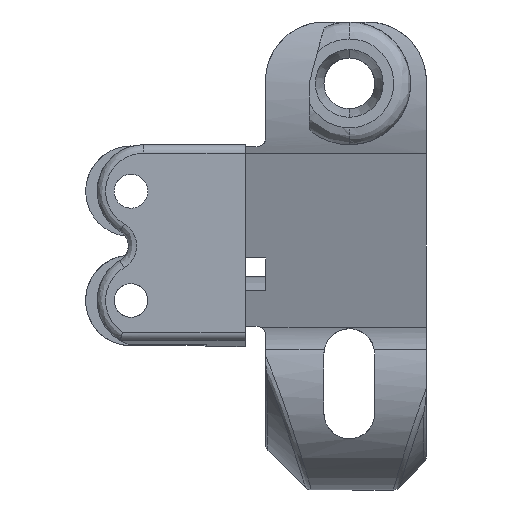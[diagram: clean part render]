
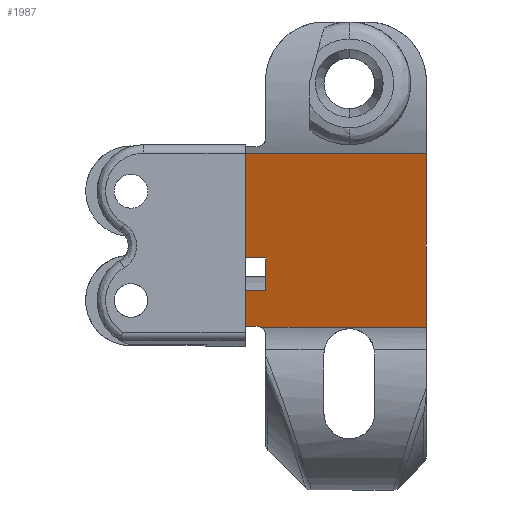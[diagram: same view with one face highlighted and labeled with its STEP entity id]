
A CAD part, left-side view. The second image highlights one B-rep face of the part: STEP entity #1987.
In plain terms, the highlighted planar face has unit normal (-0.962, 0, -0.274).
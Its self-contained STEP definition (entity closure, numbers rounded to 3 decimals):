
#49 = LINE ( 'NONE', #2809, #3305 ) ;
#51 = CARTESIAN_POINT ( 'NONE',  ( -14.586, -1.858, -11.401 ) ) ;
#91 = CARTESIAN_POINT ( 'NONE',  ( -14.586, -500000., -11.401 ) ) ;
#100 =( BOUNDED_CURVE ( )  B_SPLINE_CURVE ( 3, ( #8307, #5767, #548, #6319 ),
 .UNSPECIFIED., .F., .F. ) 
 B_SPLINE_CURVE_WITH_KNOTS ( ( 4, 4 ),
 ( 3.142, 3.618 ),
 .UNSPECIFIED. ) 
 CURVE ( )  GEOMETRIC_REPRESENTATION_ITEM ( )  RATIONAL_B_SPLINE_CURVE ( ( 1., 0.981, 0.981, 1. ) ) 
 REPRESENTATION_ITEM ( '' )  );
#157 = LINE ( 'NONE', #5869, #6881 ) ;
#229 = ORIENTED_EDGE ( 'NONE', *, *, #3858, .T. ) ;
#314 = AXIS2_PLACEMENT_3D ( 'NONE', #7993, #2166, #4763 ) ;
#372 = ORIENTED_EDGE ( 'NONE', *, *, #6979, .F. ) ;
#454 = VECTOR ( 'NONE', #4653, 1000. ) ;
#468 = LINE ( 'NONE', #6340, #5367 ) ;
#548 = CARTESIAN_POINT ( 'NONE',  ( -14.607, -1.716, -11.328 ) ) ;
#562 = LINE ( 'NONE', #752, #1775 ) ;
#602 = EDGE_CURVE ( 'NONE', #7084, #2658, #2118, .T. ) ;
#637 = ORIENTED_EDGE ( 'NONE', *, *, #7537, .F. ) ;
#674 = CARTESIAN_POINT ( 'NONE',  ( -14.618, -1.4, -11.29 ) ) ;
#752 = CARTESIAN_POINT ( 'NONE',  ( -15.814, -2.4, -7.084 ) ) ;
#863 = CARTESIAN_POINT ( 'NONE',  ( -16.919, -500000., -3.204 ) ) ;
#879 = VERTEX_POINT ( 'NONE', #674 ) ;
#1138 = VERTEX_POINT ( 'NONE', #3660 ) ;
#1374 = EDGE_CURVE ( 'NONE', #1138, #2318, #157, .T. ) ;
#1775 = VECTOR ( 'NONE', #5406, 1000. ) ;
#1798 = ORIENTED_EDGE ( 'NONE', *, *, #6457, .F. ) ;
#1847 = DIRECTION ( 'NONE',  ( 0., -1., 0. ) ) ;
#1987 = ADVANCED_FACE ( 'NONE', ( #4130 ), #3359, .F. ) ;
#2118 = LINE ( 'NONE', #863, #3649 ) ;
#2138 = DIRECTION ( 'NONE',  ( 0., -1., 0. ) ) ;
#2156 = VERTEX_POINT ( 'NONE', #2299 ) ;
#2166 = DIRECTION ( 'NONE',  ( 0.962, 0., 0.274 ) ) ;
#2299 = CARTESIAN_POINT ( 'NONE',  ( -20.428, 0., 9.129 ) ) ;
#2318 = VERTEX_POINT ( 'NONE', #2491 ) ;
#2416 = CARTESIAN_POINT ( 'NONE',  ( -15.814, 0., -7.084 ) ) ;
#2491 = CARTESIAN_POINT ( 'NONE',  ( -14.586, -21.4, -11.401 ) ) ;
#2590 = CARTESIAN_POINT ( 'NONE',  ( -15.814, -2.4, -7.084 ) ) ;
#2646 = DIRECTION ( 'NONE',  ( 0.274, 0., -0.962 ) ) ;
#2658 = VERTEX_POINT ( 'NONE', #4602 ) ;
#2745 = DIRECTION ( 'NONE',  ( 0.274, 0., -0.962 ) ) ;
#2809 = CARTESIAN_POINT ( 'NONE',  ( -15.814, 0., -7.084 ) ) ;
#2916 = LINE ( 'NONE', #7302, #4748 ) ;
#3250 = VERTEX_POINT ( 'NONE', #3670 ) ;
#3297 = VECTOR ( 'NONE', #2138, 1000. ) ;
#3305 = VECTOR ( 'NONE', #2745, 1000. ) ;
#3359 = PLANE ( 'NONE',  #314 ) ;
#3599 = LINE ( 'NONE', #4445, #6038 ) ;
#3649 = VECTOR ( 'NONE', #5434, 1000. ) ;
#3660 = CARTESIAN_POINT ( 'NONE',  ( -20.428, -21.4, 9.129 ) ) ;
#3670 = CARTESIAN_POINT ( 'NONE',  ( -14.618, 0., -11.29 ) ) ;
#3694 = ORIENTED_EDGE ( 'NONE', *, *, #5737, .T. ) ;
#3858 = EDGE_CURVE ( 'NONE', #879, #4911, #100, .T. ) ;
#3880 = CARTESIAN_POINT ( 'NONE',  ( -16.919, 0., -3.204 ) ) ;
#4126 = DIRECTION ( 'NONE',  ( 0., 1., 0. ) ) ;
#4130 = FACE_OUTER_BOUND ( 'NONE', #6590, .T. ) ;
#4445 = CARTESIAN_POINT ( 'NONE',  ( -20.428, -500000., 9.129 ) ) ;
#4602 = CARTESIAN_POINT ( 'NONE',  ( -16.919, -2.4, -3.204 ) ) ;
#4653 = DIRECTION ( 'NONE',  ( 0., 1., 0. ) ) ;
#4748 = VECTOR ( 'NONE', #4126, 1000. ) ;
#4763 = DIRECTION ( 'NONE',  ( 0.274, 0., -0.962 ) ) ;
#4911 = VERTEX_POINT ( 'NONE', #51 ) ;
#4942 = LINE ( 'NONE', #6657, #3297 ) ;
#5102 = EDGE_CURVE ( 'NONE', #879, #3250, #2916, .T. ) ;
#5225 = ORIENTED_EDGE ( 'NONE', *, *, #5353, .T. ) ;
#5309 = ORIENTED_EDGE ( 'NONE', *, *, #1374, .F. ) ;
#5353 = EDGE_CURVE ( 'NONE', #2156, #7084, #468, .T. ) ;
#5367 = VECTOR ( 'NONE', #7639, 1000. ) ;
#5406 = DIRECTION ( 'NONE',  ( -0.274, 0., 0.962 ) ) ;
#5434 = DIRECTION ( 'NONE',  ( 0., -1., 0. ) ) ;
#5737 = EDGE_CURVE ( 'NONE', #6239, #3250, #49, .T. ) ;
#5767 = CARTESIAN_POINT ( 'NONE',  ( -14.618, -1.56, -11.29 ) ) ;
#5869 = CARTESIAN_POINT ( 'NONE',  ( -15.814, -21.4, -7.084 ) ) ;
#6038 = VECTOR ( 'NONE', #1847, 1000. ) ;
#6239 = VERTEX_POINT ( 'NONE', #2416 ) ;
#6304 = ORIENTED_EDGE ( 'NONE', *, *, #5102, .F. ) ;
#6319 = CARTESIAN_POINT ( 'NONE',  ( -14.586, -1.858, -11.401 ) ) ;
#6340 = CARTESIAN_POINT ( 'NONE',  ( -20.428, 0., 9.129 ) ) ;
#6428 = EDGE_CURVE ( 'NONE', #2318, #4911, #6655, .T. ) ;
#6457 = EDGE_CURVE ( 'NONE', #7796, #2658, #562, .T. ) ;
#6590 = EDGE_LOOP ( 'NONE', ( #229, #6729, #5309, #372, #5225, #7112, #1798, #637, #3694, #6304 ) ) ;
#6655 = LINE ( 'NONE', #91, #454 ) ;
#6657 = CARTESIAN_POINT ( 'NONE',  ( -15.814, -500000., -7.084 ) ) ;
#6729 = ORIENTED_EDGE ( 'NONE', *, *, #6428, .F. ) ;
#6881 = VECTOR ( 'NONE', #2646, 1000. ) ;
#6979 = EDGE_CURVE ( 'NONE', #2156, #1138, #3599, .T. ) ;
#7084 = VERTEX_POINT ( 'NONE', #3880 ) ;
#7112 = ORIENTED_EDGE ( 'NONE', *, *, #602, .T. ) ;
#7302 = CARTESIAN_POINT ( 'NONE',  ( -14.618, -500000., -11.29 ) ) ;
#7537 = EDGE_CURVE ( 'NONE', #6239, #7796, #4942, .T. ) ;
#7639 = DIRECTION ( 'NONE',  ( 0.274, 0., -0.962 ) ) ;
#7796 = VERTEX_POINT ( 'NONE', #2590 ) ;
#7993 = CARTESIAN_POINT ( 'NONE',  ( -15.814, -500000., -7.084 ) ) ;
#8307 = CARTESIAN_POINT ( 'NONE',  ( -14.618, -1.4, -11.29 ) ) ;
